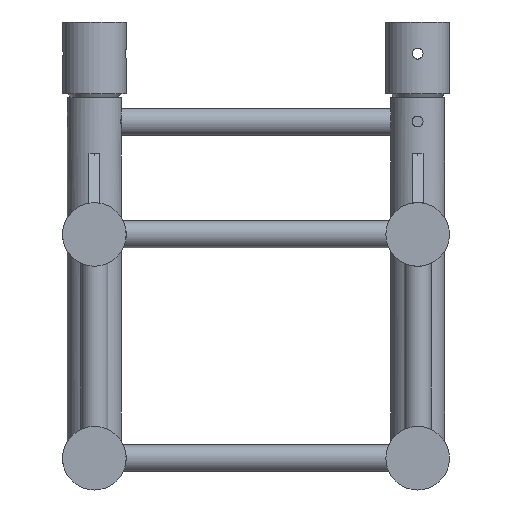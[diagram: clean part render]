
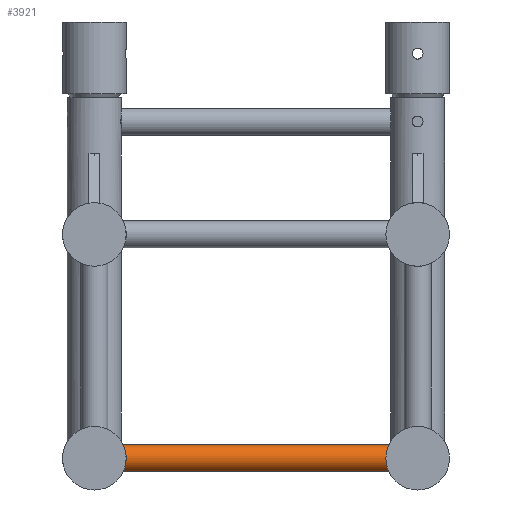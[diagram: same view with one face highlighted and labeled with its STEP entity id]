
A CAD part, left-side view. The second image highlights one B-rep face of the part: STEP entity #3921.
In plain terms, the highlighted cylindrical face has radius 12.5 mm (diameter 25 mm), a full revolution.
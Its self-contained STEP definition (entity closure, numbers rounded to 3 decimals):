
#137=FACE_BOUND('',#1088,.T.);
#744=FACE_OUTER_BOUND('',#1087,.T.);
#1087=EDGE_LOOP('',(#2896,#2897));
#1088=EDGE_LOOP('',(#2898,#2899));
#1427=CIRCLE('',#4284,12.5);
#1430=CIRCLE('',#4290,12.5);
#1460=CIRCLE('',#4349,12.5);
#1461=CIRCLE('',#4351,12.5);
#1713=VERTEX_POINT('',#6288);
#1714=VERTEX_POINT('',#6308);
#1799=VERTEX_POINT('',#7062);
#1800=VERTEX_POINT('',#7063);
#2203=EDGE_CURVE('',#1713,#1714,#1427,.T.);
#2206=EDGE_CURVE('',#1799,#1800,#1430,.T.);
#2236=EDGE_CURVE('',#1714,#1713,#1460,.T.);
#2237=EDGE_CURVE('',#1800,#1799,#1461,.T.);
#2896=ORIENTED_EDGE('',*,*,#2203,.F.);
#2897=ORIENTED_EDGE('',*,*,#2236,.F.);
#2898=ORIENTED_EDGE('',*,*,#2237,.F.);
#2899=ORIENTED_EDGE('',*,*,#2206,.F.);
#3493=CYLINDRICAL_SURFACE('',#4350,12.5);
#3921=ADVANCED_FACE('',(#744,#137),#3493,.T.);
#4284=AXIS2_PLACEMENT_3D('',#7431,#5061,#5062);
#4290=AXIS2_PLACEMENT_3D('',#7439,#5073,#5074);
#4349=AXIS2_PLACEMENT_3D('',#7502,#5191,#5192);
#4350=AXIS2_PLACEMENT_3D('',#7503,#5193,#5194);
#4351=AXIS2_PLACEMENT_3D('',#7504,#5195,#5196);
#5061=DIRECTION('center_axis',(0.,1.,0.));
#5062=DIRECTION('ref_axis',(-1.,0.,0.));
#5073=DIRECTION('center_axis',(0.,-1.,0.));
#5074=DIRECTION('ref_axis',(-1.,0.,0.));
#5191=DIRECTION('center_axis',(0.,1.,0.));
#5192=DIRECTION('ref_axis',(-1.,0.,0.));
#5193=DIRECTION('center_axis',(0.,1.,0.));
#5194=DIRECTION('ref_axis',(-1.,0.,0.));
#5195=DIRECTION('center_axis',(0.,-1.,0.));
#5196=DIRECTION('ref_axis',(-1.,0.,0.));
#6288=CARTESIAN_POINT('',(105.,274.,-207.));
#6308=CARTESIAN_POINT('',(80.,274.,-207.));
#7062=CARTESIAN_POINT('',(80.,25.,-207.));
#7063=CARTESIAN_POINT('',(105.,25.,-207.));
#7431=CARTESIAN_POINT('Origin',(92.5,274.,-207.));
#7439=CARTESIAN_POINT('Origin',(92.5,25.,-207.));
#7502=CARTESIAN_POINT('Origin',(92.5,274.,-207.));
#7503=CARTESIAN_POINT('Origin',(92.5,25.,-207.));
#7504=CARTESIAN_POINT('Origin',(92.5,25.,-207.));
